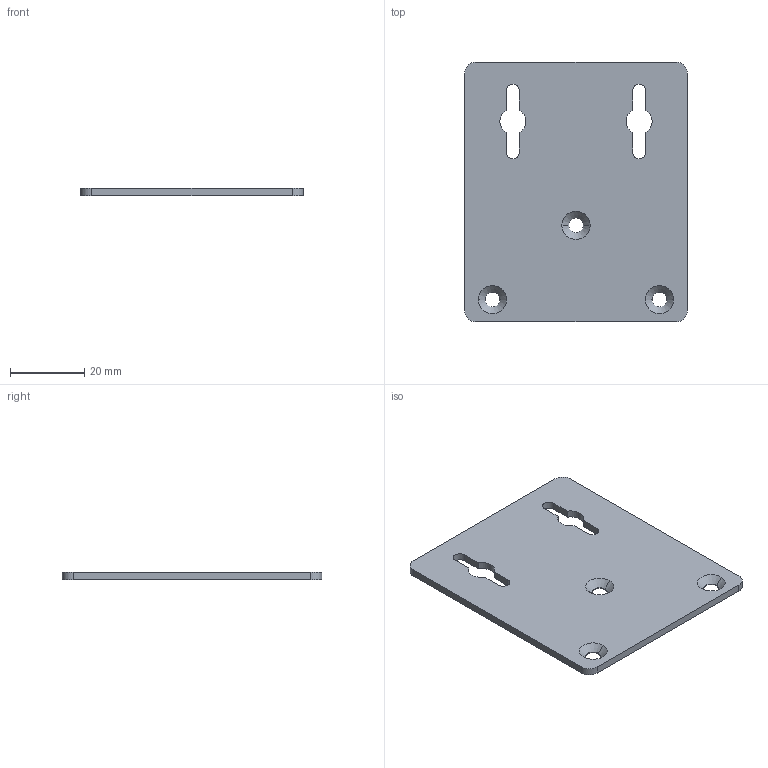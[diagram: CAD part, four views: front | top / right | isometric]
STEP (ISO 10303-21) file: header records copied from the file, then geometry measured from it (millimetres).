
FILE_DESCRIPTION((''),'2;1');
FILE_NAME('14900914080082_WK-60-01','2023-01-16T17:13:50',('Albert_Lin'),(''),'CREO PARAMETRIC BY PTC INC, 2020414','CREO PARAMETRIC BY PTC INC, 2020414','');
FILE_SCHEMA(('CONFIG_CONTROL_DESIGN','SHAPE_APPEARANCE_LAYERS_GROUPS'));
Length unit declared in the file: millimetre
Products named in the file (1): 14900914080082_WK-60-01
Bounding box: 60 x 70 x 2 mm (x, y, z)
Volume: 7900.1 mm3; surface area: 8723.6 mm2
Topology: 1 solids, 1 shells, 38 faces, 102 edges, 66 vertices
Faces by surface type: cylinder 18, plane 14, cone 6
Entity records: 1575 total; most frequent: DIRECTION 220, CARTESIAN_POINT 206, ORIENTED_EDGE 204, PRESENTATION_STYLE_ASSIGNMENT 103, STYLED_ITEM 103, CURVE_STYLE 102, EDGE_CURVE 102, AXIS2_PLACEMENT_3D 80
